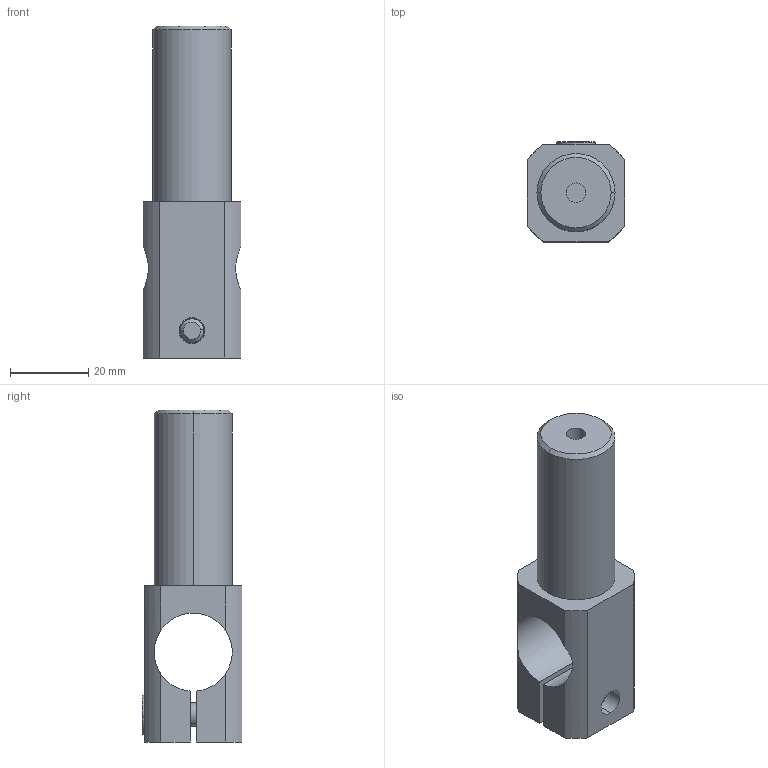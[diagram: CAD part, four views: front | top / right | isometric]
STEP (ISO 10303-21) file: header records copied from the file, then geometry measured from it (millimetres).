
FILE_DESCRIPTION (( 'STEP AP214' ), '1' );
FILE_NAME ('SMBR4-2020M6L.STEP', '2019-11-07T02:07:47', ( '微软用户' ), ( '微软中国' ), 'SwSTEP 2.0', 'SolidWorks 2016', '' );
FILE_SCHEMA (( 'AUTOMOTIVE_DESIGN' ));
Length unit declared in the file: millimetre
Products named in the file (1): SMBR4-2020M6L
Bounding box: 25 x 25.6 x 85 mm (x, y, z)
Volume: 28963.8 mm3; surface area: 10526.5 mm2
Topology: 3 solids, 3 shells, 201 faces, 570 edges, 378 vertices
Faces by surface type: plane 170, cylinder 23, cone 6, bspline 2
Entity records: 8943 total; most frequent: CARTESIAN_POINT 1268, DIRECTION 1164, ORIENTED_EDGE 1140, EDGE_CURVE 570, AXIS2_PLACEMENT_3D 402, VERTEX_POINT 378, VECTOR 360, LINE 360
